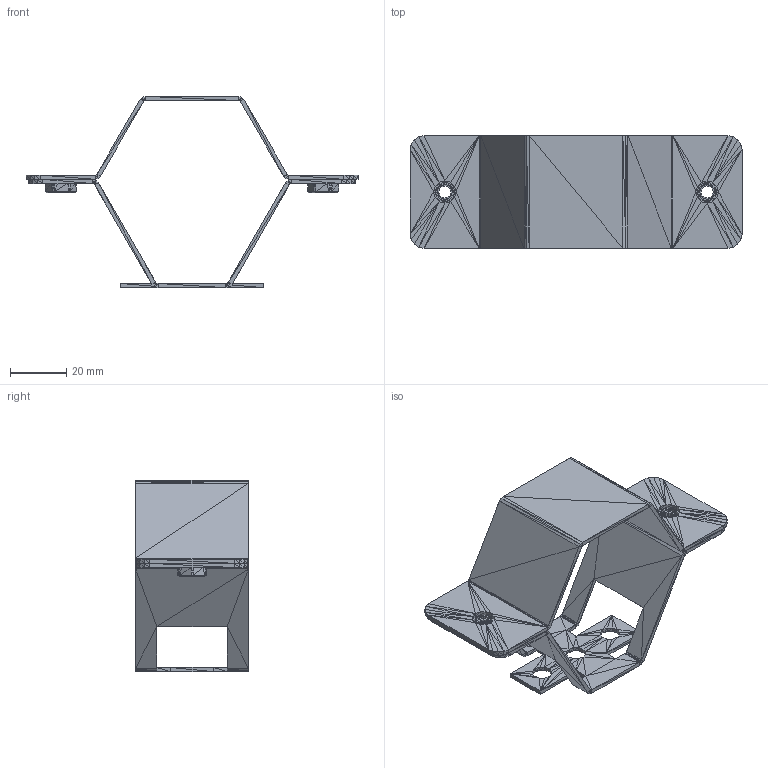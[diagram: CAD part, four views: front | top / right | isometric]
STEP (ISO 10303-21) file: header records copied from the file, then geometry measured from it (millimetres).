
FILE_DESCRIPTION((''),'2;1');
FILE_NAME('051093', '2025-12-10T09:13:39', (''), (''), 'ImageToStl.com STEP Converter','', '');
FILE_SCHEMA(('AUTOMOTIVE_DESIGN_CC2'));
Length unit declared in the file: metre
Products named in the file (1): product0
Bounding box: 118 x 40 x 68 mm (x, y, z)
Surface area: 25106.1 mm2 (no closed solid volume)
Topology: 0 solids, 1484 shells, 1484 faces, 4452 edges, 728 vertices
Faces by surface type: plane 1484
Entity records: 34132 total; most frequent: DIRECTION 7422, ORIENTED_EDGE 4452, EDGE_CURVE 4452, LINE 4452, VECTOR 4452, AXIS2_PLACEMENT_3D 1485, FACE_SURFACE 1484, PLANE 1484
